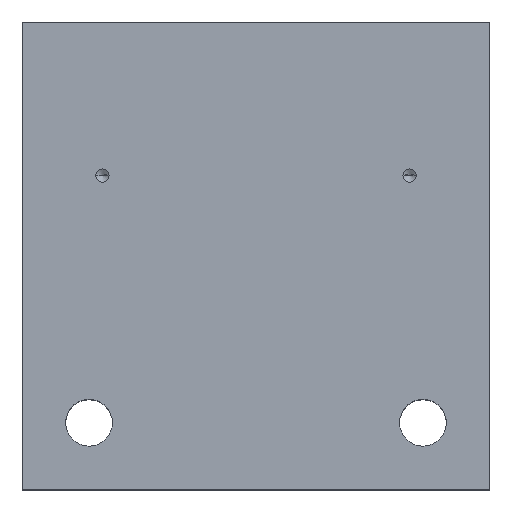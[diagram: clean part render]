
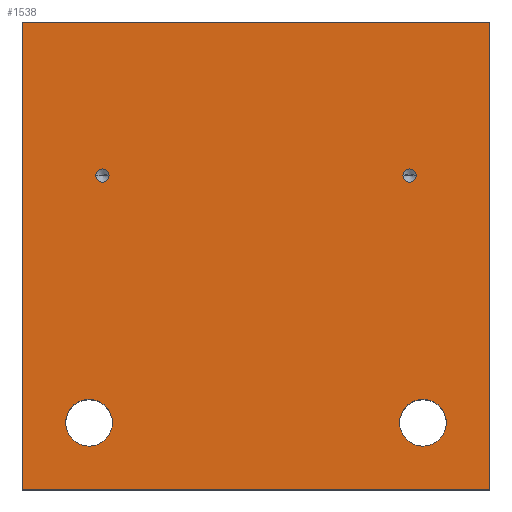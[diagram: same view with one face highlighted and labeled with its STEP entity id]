
A CAD part, top view. The second image highlights one B-rep face of the part: STEP entity #1538.
In plain terms, the highlighted planar face has unit normal (0, 0, 1).
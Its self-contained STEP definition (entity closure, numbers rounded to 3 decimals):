
#18=DIRECTION('',(0.,-1.,0.));
#19=VECTOR('',#18,70.);
#20=CARTESIAN_POINT('',(0.,0.,0.));
#21=LINE('',#20,#19);
#26=DIRECTION('',(-1.,0.,0.));
#27=VECTOR('',#26,70.);
#28=CARTESIAN_POINT('',(70.,0.,0.));
#29=LINE('',#28,#27);
#33=DIRECTION('',(0.,1.,0.));
#34=VECTOR('',#33,70.);
#35=CARTESIAN_POINT('',(70.,-70.,0.));
#36=LINE('',#35,#34);
#40=DIRECTION('',(1.,0.,0.));
#41=VECTOR('',#40,70.);
#42=CARTESIAN_POINT('',(0.,-70.,0.));
#43=LINE('',#42,#41);
#47=CARTESIAN_POINT('',(10.,-60.,0.));
#48=DIRECTION('',(0.,0.,1.));
#49=DIRECTION('',(-1.,0.,0.));
#50=AXIS2_PLACEMENT_3D('',#47,#48,#49);
#55=CARTESIAN_POINT('',(10.,-60.,0.));
#56=DIRECTION('',(0.,0.,1.));
#57=DIRECTION('',(1.,0.,0.));
#58=AXIS2_PLACEMENT_3D('',#55,#56,#57);
#63=CARTESIAN_POINT('',(60.,-60.,0.));
#64=DIRECTION('',(0.,0.,1.));
#65=DIRECTION('',(-1.,0.,0.));
#66=AXIS2_PLACEMENT_3D('',#63,#64,#65);
#71=CARTESIAN_POINT('',(60.,-60.,0.));
#72=DIRECTION('',(0.,0.,1.));
#73=DIRECTION('',(1.,0.,0.));
#74=AXIS2_PLACEMENT_3D('',#71,#72,#73);
#79=CARTESIAN_POINT('',(12.,-23.,0.));
#80=DIRECTION('',(0.,0.,1.));
#81=DIRECTION('',(-1.,0.,0.));
#82=AXIS2_PLACEMENT_3D('',#79,#80,#81);
#87=CARTESIAN_POINT('',(12.,-23.,0.));
#88=DIRECTION('',(0.,0.,1.));
#89=DIRECTION('',(1.,0.,0.));
#90=AXIS2_PLACEMENT_3D('',#87,#88,#89);
#95=CARTESIAN_POINT('',(58.,-23.,0.));
#96=DIRECTION('',(0.,0.,1.));
#97=DIRECTION('',(-1.,0.,0.));
#98=AXIS2_PLACEMENT_3D('',#95,#96,#97);
#103=CARTESIAN_POINT('',(58.,-23.,0.));
#104=DIRECTION('',(0.,0.,1.));
#105=DIRECTION('',(1.,0.,0.));
#106=AXIS2_PLACEMENT_3D('',#103,#104,#105);
#1323=CARTESIAN_POINT('',(0.,0.,0.));
#1324=CARTESIAN_POINT('',(0.,-70.,0.));
#1325=VERTEX_POINT('',#1323);
#1326=VERTEX_POINT('',#1324);
#1327=CARTESIAN_POINT('',(70.,-70.,0.));
#1328=VERTEX_POINT('',#1327);
#1329=CARTESIAN_POINT('',(70.,0.,0.));
#1330=VERTEX_POINT('',#1329);
#1440=CARTESIAN_POINT('',(6.5,-60.,0.));
#1442=VERTEX_POINT('',#1440);
#1444=CARTESIAN_POINT('',(13.5,-60.,0.));
#1446=VERTEX_POINT('',#1444);
#1448=CARTESIAN_POINT('',(56.5,-60.,0.));
#1450=VERTEX_POINT('',#1448);
#1452=CARTESIAN_POINT('',(63.5,-60.,0.));
#1454=VERTEX_POINT('',#1452);
#1477=CARTESIAN_POINT('',(11.,-23.,0.));
#1478=VERTEX_POINT('',#1477);
#1479=CARTESIAN_POINT('',(13.,-23.,0.));
#1480=VERTEX_POINT('',#1479);
#1487=CARTESIAN_POINT('',(57.,-23.,0.));
#1488=VERTEX_POINT('',#1487);
#1489=CARTESIAN_POINT('',(59.,-23.,0.));
#1490=VERTEX_POINT('',#1489);
#1499=CARTESIAN_POINT('',(0.,0.,0.));
#1500=DIRECTION('',(0.,0.,1.));
#1501=DIRECTION('',(1.,0.,0.));
#1502=AXIS2_PLACEMENT_3D('',#1499,#1500,#1501);
#1503=PLANE('',#1502);
#1505=ORIENTED_EDGE('',*,*,#1504,.F.);
#1507=ORIENTED_EDGE('',*,*,#1506,.F.);
#1509=ORIENTED_EDGE('',*,*,#1508,.F.);
#1511=ORIENTED_EDGE('',*,*,#1510,.F.);
#1512=EDGE_LOOP('',(#1505,#1507,#1509,#1511));
#1513=FACE_OUTER_BOUND('',#1512,.F.);
#1515=ORIENTED_EDGE('',*,*,#1514,.T.);
#1517=ORIENTED_EDGE('',*,*,#1516,.T.);
#1518=EDGE_LOOP('',(#1515,#1517));
#1519=FACE_BOUND('',#1518,.F.);
#1521=ORIENTED_EDGE('',*,*,#1520,.T.);
#1523=ORIENTED_EDGE('',*,*,#1522,.T.);
#1524=EDGE_LOOP('',(#1521,#1523));
#1525=FACE_BOUND('',#1524,.F.);
#1527=ORIENTED_EDGE('',*,*,#1526,.T.);
#1529=ORIENTED_EDGE('',*,*,#1528,.T.);
#1530=EDGE_LOOP('',(#1527,#1529));
#1531=FACE_BOUND('',#1530,.F.);
#1533=ORIENTED_EDGE('',*,*,#1532,.T.);
#1535=ORIENTED_EDGE('',*,*,#1534,.T.);
#1536=EDGE_LOOP('',(#1533,#1535));
#1537=FACE_BOUND('',#1536,.F.);
#51=CIRCLE('',#50,3.5);
#59=CIRCLE('',#58,3.5);
#67=CIRCLE('',#66,3.5);
#75=CIRCLE('',#74,3.5);
#83=CIRCLE('',#82,1.);
#91=CIRCLE('',#90,1.);
#99=CIRCLE('',#98,1.);
#107=CIRCLE('',#106,1.);
#1504=EDGE_CURVE('',#1325,#1326,#21,.T.);
#1506=EDGE_CURVE('',#1330,#1325,#29,.T.);
#1508=EDGE_CURVE('',#1328,#1330,#36,.T.);
#1510=EDGE_CURVE('',#1326,#1328,#43,.T.);
#1514=EDGE_CURVE('',#1442,#1446,#51,.T.);
#1516=EDGE_CURVE('',#1446,#1442,#59,.T.);
#1520=EDGE_CURVE('',#1450,#1454,#67,.T.);
#1522=EDGE_CURVE('',#1454,#1450,#75,.T.);
#1526=EDGE_CURVE('',#1478,#1480,#83,.T.);
#1528=EDGE_CURVE('',#1480,#1478,#91,.T.);
#1532=EDGE_CURVE('',#1488,#1490,#99,.T.);
#1534=EDGE_CURVE('',#1490,#1488,#107,.T.);
#1538=ADVANCED_FACE('',(#1513,#1519,#1525,#1531,#1537),#1503,.T.);
